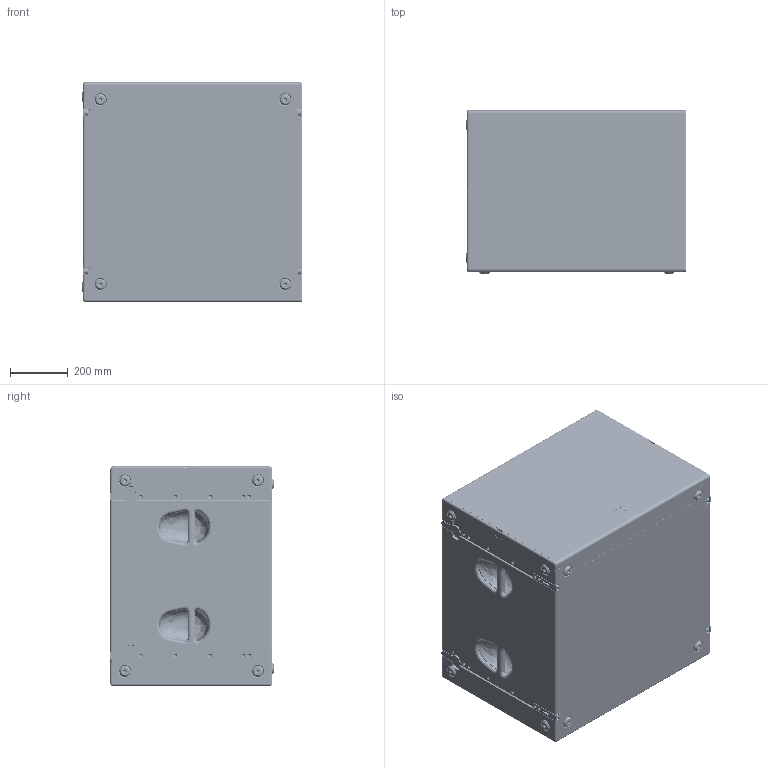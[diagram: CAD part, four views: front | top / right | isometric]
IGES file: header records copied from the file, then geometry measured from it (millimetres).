
Start section: SolidWorks IGES file using analytic representation for surfaces
Global section: file name: C:\Documents and Settings\Administrator\Desktop\Dateien-für-Internet\SEEBURG_Galeo-T-Sub.IGS; native system: SolidWorks 2009; preprocessor: SolidWorks 2009; author: Administrator; date: 160225.104415; units: millimetre
Bounding box: 765 x 565 x 760.5 mm (x, y, z)
Surface area: 6894923 mm2 (no closed solid volume)
Topology: 0 solids, 0 shells, 2186 faces, 31922 edges, 31910 vertices
Faces by surface type: revolution 1122, bspline 1064
